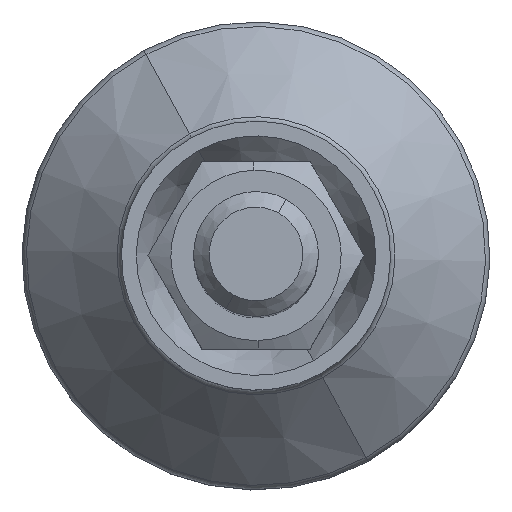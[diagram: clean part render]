
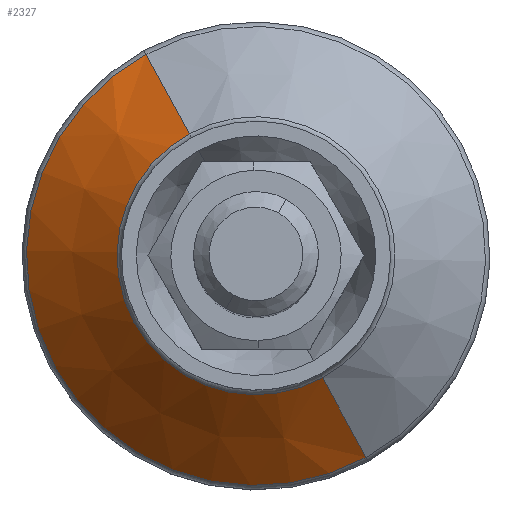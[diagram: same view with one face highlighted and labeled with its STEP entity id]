
A CAD part, top view. The second image highlights one B-rep face of the part: STEP entity #2327.
In plain terms, the highlighted conical face has half-angle 44.444 degrees and reference radius 17.25 mm.
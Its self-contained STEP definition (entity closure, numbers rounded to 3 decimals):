
#189=CARTESIAN_POINT('Vertex',(14.108,-25.825,-2.917)) ;
#205=CARTESIAN_POINT('Vertex',(-14.108,25.825,-2.917)) ;
#230=CARTESIAN_POINT('Axis2P3D Location',(0.,0.,-2.917)) ;
#2297=CARTESIAN_POINT('Axis2P3D Location',(0.,0.,9.5)) ;
#2302=CARTESIAN_POINT('Line Origine',(-11.326,20.733,3.)) ;
#2306=CARTESIAN_POINT('Vertex',(-8.544,15.64,8.917)) ;
#2309=CARTESIAN_POINT('Line Origine',(11.326,-20.733,3.)) ;
#2313=CARTESIAN_POINT('Vertex',(8.544,-15.64,8.917)) ;
#2316=CARTESIAN_POINT('Axis2P3D Location',(0.,0.,8.917)) ;
#231=DIRECTION('Axis2P3D Direction',(0.,0.,-1.)) ;
#2298=DIRECTION('Axis2P3D Direction',(-0.,-0.,-1.)) ;
#2299=DIRECTION('Axis2P3D XDirection',(-0.479,0.878,0.)) ;
#2303=DIRECTION('Vector Direction',(-0.336,0.614,-0.714)) ;
#2310=DIRECTION('Vector Direction',(0.336,-0.614,-0.714)) ;
#2317=DIRECTION('Axis2P3D Direction',(0.,0.,-1.)) ;
#232=AXIS2_PLACEMENT_3D('Circle Axis2P3D',#230,#231,$) ;
#2300=AXIS2_PLACEMENT_3D('Cone Axis2P3D',#2297,#2298,#2299) ;
#2318=AXIS2_PLACEMENT_3D('Circle Axis2P3D',#2316,#2317,$) ;
#2322=ORIENTED_EDGE('',*,*,#2308,.F.) ;
#2323=ORIENTED_EDGE('',*,*,#234,.T.) ;
#2324=ORIENTED_EDGE('',*,*,#2315,.T.) ;
#2325=ORIENTED_EDGE('',*,*,#2320,.T.) ;
#2304=VECTOR('Line Direction',#2303,1.) ;
#2311=VECTOR('Line Direction',#2310,1.) ;
#2327=ADVANCED_FACE('PartBody',(#2326),#2301,.T.) ;
#233=CIRCLE('generated circle',#232,29.428) ;
#2319=CIRCLE('generated circle',#2318,17.822) ;
#2301=CONICAL_SURFACE('Cone',#2300,17.25,0.776) ;
#234=EDGE_CURVE('',#206,#190,#233,.F.) ;
#2308=EDGE_CURVE('',#206,#2307,#2305,.F.) ;
#2315=EDGE_CURVE('',#190,#2314,#2312,.F.) ;
#2320=EDGE_CURVE('',#2314,#2307,#2319,.T.) ;
#2321=EDGE_LOOP('',(#2322,#2323,#2324,#2325)) ;
#2326=FACE_OUTER_BOUND('',#2321,.T.) ;
#2305=LINE('Line',#2302,#2304) ;
#2312=LINE('Line',#2309,#2311) ;
#190=VERTEX_POINT('',#189) ;
#206=VERTEX_POINT('',#205) ;
#2307=VERTEX_POINT('',#2306) ;
#2314=VERTEX_POINT('',#2313) ;
